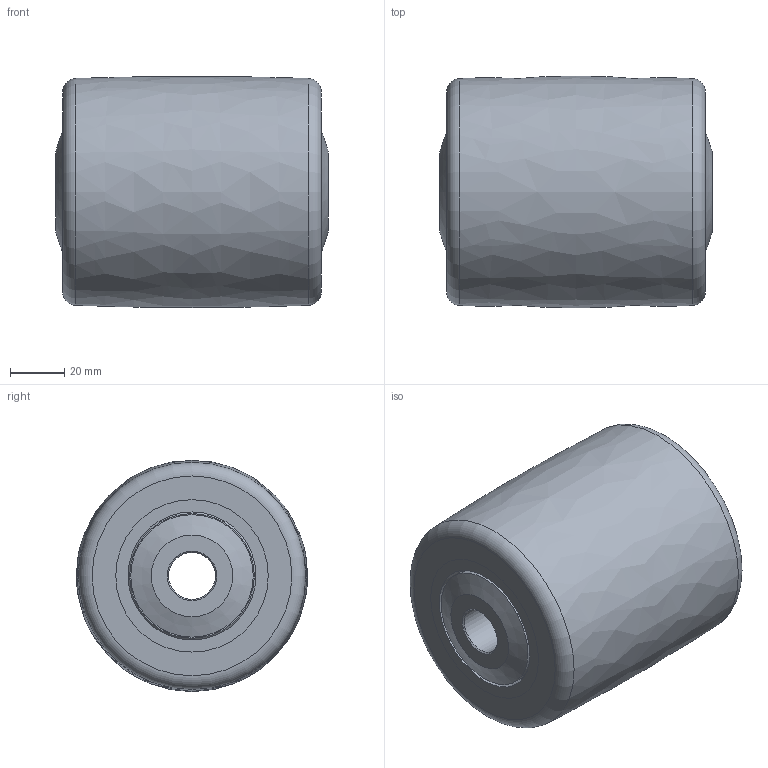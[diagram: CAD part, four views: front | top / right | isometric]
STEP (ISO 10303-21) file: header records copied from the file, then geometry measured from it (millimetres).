
FILE_DESCRIPTION(/* description */ (''),/* implementation_level */ '2;1');
FILE_NAME(/* name */ 'F:/기술영업부/홈페이지관련/2019/롤러도면/HURD-85-10017.step',/* time_stamp */ '2019-07-31T11:27:47+09:00',/* author */ (''),/* organization */ (''),/* preprocessor_version */ 'ST-DEVELOPER v18',/* originating_system */ 'Autodesk Translation Framework v8.2.0.1029',/* authorisation */ '');
FILE_SCHEMA (('AUTOMOTIVE_DESIGN { 1 0 10303 214 3 1 1 }'));
Length unit declared in the file: millimetre
Products named in the file (5): HURD-85-10017; Component1; Component2; Ball Bearing 6005; Roller_Cover D17
Assembly tree (6 placements, depth 2):
  HURD-85-10017
    Component1
    Component2
    Ball Bearing 6005  x2
    Roller_Cover D17  x2
Bounding box: 100 x 85 x 84.91 mm (x, y, z)
Volume: 435360.6 mm3; surface area: 113146.5 mm2
Topology: 40 solids, 40 shells, 124 faces, 336 edges, 242 vertices
Faces by surface type: cylinder 37, plane 30, sphere 28, cone 18, torus 10, bspline 1
Full cylindrical faces by diameter (mm): 17.2 x2, 24.8 x2, 25 x2, 30 x2, 32.923 x8, 39.077 x8, 41 x1, 45 x2, 47 x4, 53 x2, 56 x4
Entity records: 2508 total; most frequent: DIRECTION 472, CARTESIAN_POINT 423, ORIENTED_EDGE 340, AXIS2_PLACEMENT_3D 219, EDGE_CURVE 170, VERTEX_POINT 143, CIRCLE 136, EDGE_LOOP 91
